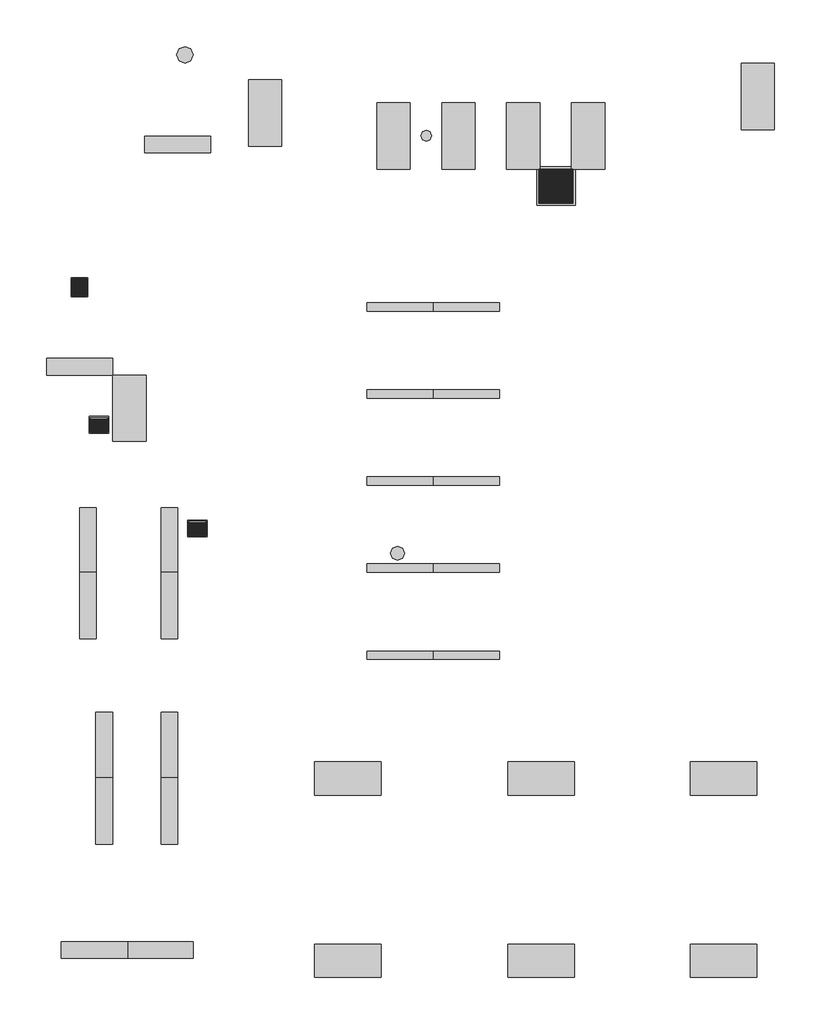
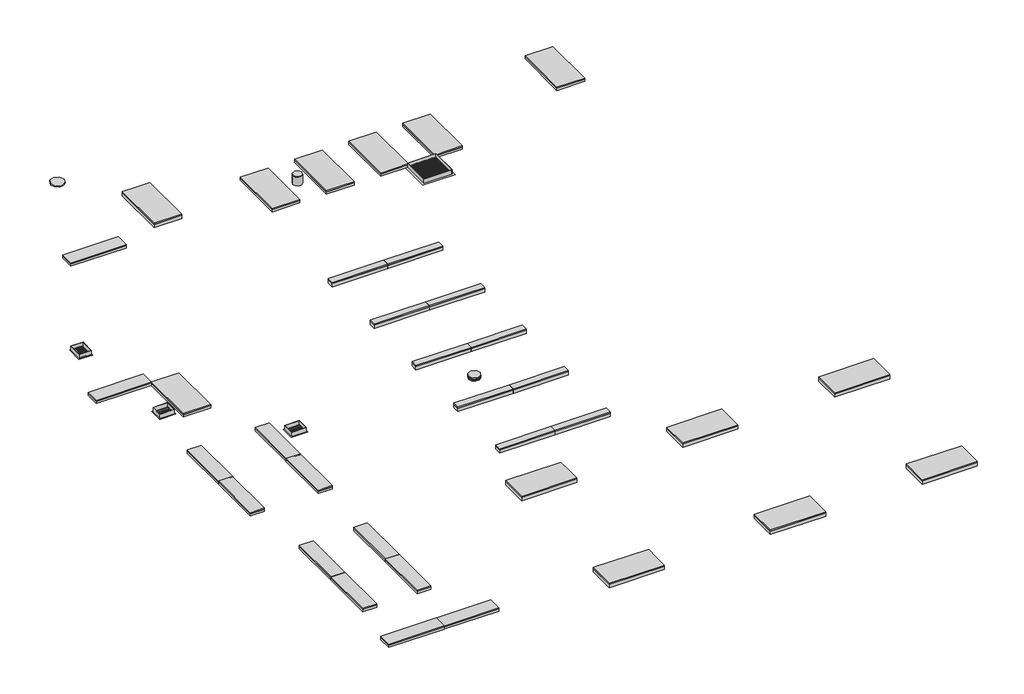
# One storey: 36 light fixtures, 6 proxies.
"""IFC4 building model written with IfcOpenShell, lengths in millimetres."""

from ifc_helpers import new_model, si_unit, origin, place, context, project, spatial, transform, mapped, element, save
from components import air_grill_2_x_2_3d4e8104, air_grill_2_x_2_69e3441c, air_grill_2_x_2_5c2ee384, air_grill_2_x_2_c6a46b44, air_vent_default_1_947aef1c, proxy_8f18e016, default_1_231b9623, recessed_fluorescent_light_default_1_edb9868a, recessed_fluorescent_light_default_1_c438942c, light_fixture_643521e1, suspended_fluorescent_light_default_1_04298bdc, suspended_fluorescent_light_default_1_26eb93f3

model = new_model("IFC4")

# Units and contexts
model_context = context("Model", 3, world=origin())
ifc_project = project(units=[si_unit("LENGTHUNIT", "METRE", prefix="MILLI")], contexts=[model_context])

# Site, building, storey
site = spatial("IfcSite", under=ifc_project)
building = spatial("IfcBuilding", under=site)
storey = spatial("IfcBuildingStorey", under=building, Name="U/S of Joists", Elevation=3352.8)

# Proxies
placement = place(None, origin())
air_grill_2_x_2_shape = air_grill_2_x_2_3d4e8104(model_context)
air_grill_2_x_2_2_shape = air_grill_2_x_2_69e3441c(model_context)
air_grill_2_x_2_3_shape = air_grill_2_x_2_5c2ee384(model_context)
air_grill_2_x_2_4_shape = air_grill_2_x_2_c6a46b44(model_context)
element("IfcBuildingElementProxy", 1, Name="Air Grill : 2' x 2'", ObjectType="Air Grill : 2' x 2'", at=placement, inside=storey, context=model_context, shape_type="MappedRepresentation", body=[
    mapped(air_grill_2_x_2_shape, transform((10483.6452, 8232.775, 254.0), x_axis=(1.0, 0.0, 0.0), y_axis=(0.0, 1.0, 0.0), z_axis=(0.0, 0.0, 1.0))),
    mapped(air_grill_2_x_2_2_shape, transform((10483.6452, 8232.775, 254.0), x_axis=(1.0, 0.0, 0.0), y_axis=(0.0, 1.0, 0.0), z_axis=(0.0, 0.0, 1.0))),
    mapped(air_grill_2_x_2_3_shape, transform((10483.6452, 8232.775, 254.0), x_axis=(1.0, 0.0, 0.0), y_axis=(0.0, 1.0, 0.0), z_axis=(0.0, 0.0, 1.0))),
    mapped(air_grill_2_x_2_4_shape, transform((10483.6452, 8232.775, 254.0), x_axis=(1.0, 0.0, 0.0), y_axis=(0.0, 1.0, 0.0), z_axis=(0.0, 0.0, 1.0))),
])
air_vent_default_1_shape = air_vent_default_1_947aef1c(model_context)
element("IfcBuildingElementProxy", 2, Name="Air Vent : Default 1", ObjectType="Air Vent : Default 1", at=placement, inside=storey, context=model_context, shape_type="MappedRepresentation", body=[
    mapped(air_vent_default_1_shape, transform((3885.9952, 1941.2857, 304.8), x_axis=(0.0, 1.0, 0.0), y_axis=(-1.0, 0.0, 0.0), z_axis=(0.0, 0.0, 1.0))),
])
element("IfcBuildingElementProxy", 3, Name="Air Vent : Default 1", ObjectType="Air Vent : Default 1", at=placement, inside=storey, context=model_context, shape_type="MappedRepresentation", body=[
    mapped(air_vent_default_1_shape, transform((1714.2952, 6373.7725407, 203.2), x_axis=(1.0, 0.0, 0.0), y_axis=(0.0, 1.0, 0.0), z_axis=(0.0, 0.0, 1.0))),
])
element("IfcBuildingElementProxy", 4, Name="Air Vent : Default 1", ObjectType="Air Vent : Default 1", at=placement, inside=storey, context=model_context, shape_type="MappedRepresentation", body=[
    mapped(air_vent_default_1_shape, transform((2076.2452, 3844.925, 203.2), x_axis=(0.0, 1.0, 0.0), y_axis=(-1.0, 0.0, 0.0), z_axis=(0.0, 0.0, 1.0))),
])
proxy_shape = proxy_8f18e016(model_context)
element("IfcBuildingElementProxy", 5, Name="Ceiling Mounted Light : 2'-0\"", ObjectType="Ceiling Mounted Light : 2'-0\"", at=placement, inside=storey, context=model_context, shape_type="MappedRepresentation", body=[
    mapped(proxy_shape, transform((3657.3952, 10645.775, 914.4), x_axis=(1.0, 0.0, 0.0), y_axis=(0.0, 1.0, 0.0), z_axis=(0.0, 0.0, 1.0))),
])
default_1_shape = default_1_231b9623(model_context)
element("IfcBuildingElementProxy", 6, Name="Smoke & Carbon Monoxide Detector : Default 1", ObjectType="Smoke & Carbon Monoxide Detector : Default 1", at=placement, inside=storey, context=model_context, shape_type="MappedRepresentation", body=[
    mapped(default_1_shape, transform((7568.9952, 1482.725, 609.6), x_axis=(1.0, 0.0, 0.0), y_axis=(0.0, 1.0, 0.0), z_axis=(0.0, 0.0, 1.0))),
])

# Light fixtures
recessed_fluorescent_light_default_1_shape = recessed_fluorescent_light_default_1_edb9868a(model_context)
element("IfcLightFixture", 7, ObjectType="Recessed Fluorescent Light : Default 1", at=placement, inside=storey, context=model_context, shape_type="MappedRepresentation", body=[
    mapped(recessed_fluorescent_light_default_1_shape, transform((3523.8952, 8994.946108, 304.8), x_axis=(1.0, 0.0, 0.0), y_axis=(0.0, 1.0, 0.0), z_axis=(0.0, 0.0, 1.0))),
])
element("IfcLightFixture", 8, ObjectType="Recessed Fluorescent Light : Default 1", at=placement, inside=storey, context=model_context, shape_type="MappedRepresentation", body=[
    mapped(recessed_fluorescent_light_default_1_shape, transform((1720.6452, 4911.725, 203.2), x_axis=(1.0, 0.0, 0.0), y_axis=(0.0, 1.0, 0.0), z_axis=(0.0, 0.0, 1.0))),
])
element("IfcLightFixture", 9, ObjectType="Recessed Fluorescent Light : Default 1", at=placement, inside=storey, context=model_context, shape_type="MappedRepresentation", body=[
    mapped(recessed_fluorescent_light_default_1_shape, transform((3371.6452, -2047.875, 254.0), x_axis=(0.0, 1.0, 0.0), y_axis=(-1.0, 0.0, 0.0), z_axis=(0.0, 0.0, 1.0))),
])
element("IfcLightFixture", 10, ObjectType="Recessed Fluorescent Light : Default 1", at=placement, inside=storey, context=model_context, shape_type="MappedRepresentation", body=[
    mapped(recessed_fluorescent_light_default_1_shape, transform((3371.6452, -3254.375, 254.0), x_axis=(0.0, 1.0, 0.0), y_axis=(-1.0, 0.0, 0.0), z_axis=(0.0, 0.0, 1.0))),
])
element("IfcLightFixture", 11, ObjectType="Recessed Fluorescent Light : Default 1", at=placement, inside=storey, context=model_context, shape_type="MappedRepresentation", body=[
    mapped(recessed_fluorescent_light_default_1_shape, transform((2171.4952, -2047.875, 254.0), x_axis=(0.0, 1.0, 0.0), y_axis=(-1.0, 0.0, 0.0), z_axis=(0.0, 0.0, 1.0))),
])
element("IfcLightFixture", 12, ObjectType="Recessed Fluorescent Light : Default 1", at=placement, inside=storey, context=model_context, shape_type="MappedRepresentation", body=[
    mapped(recessed_fluorescent_light_default_1_shape, transform((2171.4952, -3254.375, 254.0), x_axis=(0.0, 1.0, 0.0), y_axis=(-1.0, 0.0, 0.0), z_axis=(0.0, 0.0, 1.0))),
])
element("IfcLightFixture", 13, ObjectType="Recessed Fluorescent Light : Default 1", at=placement, inside=storey, context=model_context, shape_type="MappedRepresentation", body=[
    mapped(recessed_fluorescent_light_default_1_shape, transform((3371.6452, 1714.425, 304.8), x_axis=(0.0, 1.0, 0.0), y_axis=(-1.0, 0.0, 0.0), z_axis=(0.0, 0.0, 1.0))),
])
element("IfcLightFixture", 14, ObjectType="Recessed Fluorescent Light : Default 1", at=placement, inside=storey, context=model_context, shape_type="MappedRepresentation", body=[
    mapped(recessed_fluorescent_light_default_1_shape, transform((3371.6452, 520.625, 304.8), x_axis=(0.0, 1.0, 0.0), y_axis=(-1.0, 0.0, 0.0), z_axis=(0.0, 0.0, 1.0))),
])
element("IfcLightFixture", 15, ObjectType="Recessed Fluorescent Light : Default 1", at=placement, inside=storey, context=model_context, shape_type="MappedRepresentation", body=[
    mapped(recessed_fluorescent_light_default_1_shape, transform((1873.0452, 1714.425, 304.8), x_axis=(0.0, 1.0, 0.0), y_axis=(-1.0, 0.0, 0.0), z_axis=(0.0, 0.0, 1.0))),
])
element("IfcLightFixture", 16, ObjectType="Recessed Fluorescent Light : Default 1", at=placement, inside=storey, context=model_context, shape_type="MappedRepresentation", body=[
    mapped(recessed_fluorescent_light_default_1_shape, transform((1873.0452, 520.625, 304.8), x_axis=(0.0, 1.0, 0.0), y_axis=(-1.0, 0.0, 0.0), z_axis=(0.0, 0.0, 1.0))),
])
element("IfcLightFixture", 17, ObjectType="Recessed Fluorescent Light : Default 1", at=placement, inside=storey, context=model_context, shape_type="MappedRepresentation", body=[
    mapped(recessed_fluorescent_light_default_1_shape, transform((3193.8452, -5813.425, 914.4), x_axis=(1.0, 0.0, 0.0), y_axis=(0.0, 1.0, 0.0), z_axis=(0.0, 0.0, 1.0))),
])
element("IfcLightFixture", 18, ObjectType="Recessed Fluorescent Light : Default 1", at=placement, inside=storey, context=model_context, shape_type="MappedRepresentation", body=[
    mapped(recessed_fluorescent_light_default_1_shape, transform((1993.8452, -5813.425, 914.4), x_axis=(1.0, 0.0, 0.0), y_axis=(0.0, 1.0, 0.0), z_axis=(0.0, 0.0, 1.0))),
])
recessed_fluorescent_light_default_1_2_shape = recessed_fluorescent_light_default_1_c438942c(model_context)
element("IfcLightFixture", 19, ObjectType="Recessed Fluorescent Light : Default 1", at=placement, inside=storey, context=model_context, shape_type="MappedRepresentation", body=[
    mapped(recessed_fluorescent_light_default_1_2_shape, transform((7492.7952, 9153.525, 254.0), x_axis=(0.0, 1.0, 0.0), y_axis=(-1.0, 0.0, 0.0), z_axis=(0.0, 0.0, 1.0))),
])
element("IfcLightFixture", 20, ObjectType="Recessed Fluorescent Light : Default 1", at=placement, inside=storey, context=model_context, shape_type="MappedRepresentation", body=[
    mapped(recessed_fluorescent_light_default_1_2_shape, transform((8686.5952, 9153.525, 254.0), x_axis=(0.0, 1.0, 0.0), y_axis=(-1.0, 0.0, 0.0), z_axis=(0.0, 0.0, 1.0))),
])
element("IfcLightFixture", 21, ObjectType="Recessed Fluorescent Light : Default 1", at=placement, inside=storey, context=model_context, shape_type="MappedRepresentation", body=[
    mapped(recessed_fluorescent_light_default_1_2_shape, transform((9880.3952, 9153.525, 254.0), x_axis=(0.0, 1.0, 0.0), y_axis=(-1.0, 0.0, 0.0), z_axis=(0.0, 0.0, 1.0))),
])
element("IfcLightFixture", 22, ObjectType="Recessed Fluorescent Light : Default 1", at=placement, inside=storey, context=model_context, shape_type="MappedRepresentation", body=[
    mapped(recessed_fluorescent_light_default_1_2_shape, transform((11074.1952, 9153.525, 254.0), x_axis=(0.0, 1.0, 0.0), y_axis=(-1.0, 0.0, 0.0), z_axis=(0.0, 0.0, 1.0))),
])
element("IfcLightFixture", 23, ObjectType="Recessed Fluorescent Light : Default 1", at=placement, inside=storey, context=model_context, shape_type="MappedRepresentation", body=[
    mapped(recessed_fluorescent_light_default_1_2_shape, transform((14192.0452, 9877.425, 304.8), x_axis=(0.0, 1.0, 0.0), y_axis=(-1.0, 0.0, 0.0), z_axis=(0.0, 0.0, 1.0))),
])
element("IfcLightFixture", 24, ObjectType="Recessed Fluorescent Light : Default 1", at=placement, inside=storey, context=model_context, shape_type="MappedRepresentation", body=[
    mapped(recessed_fluorescent_light_default_1_2_shape, transform((2635.0452, 4149.725, 203.2), x_axis=(0.0, 1.0, 0.0), y_axis=(-1.0, 0.0, 0.0), z_axis=(0.0, 0.0, 1.0))),
])
light_fixture_shape = light_fixture_643521e1(model_context)
element("IfcLightFixture", 25, ObjectType="Recessed Pot Light : 8\"", at=placement, inside=storey, context=model_context, shape_type="MappedRepresentation", body=[
    mapped(light_fixture_shape, transform((8096.0452, 9159.875, 254.0), x_axis=(1.0, 0.0, 0.0), y_axis=(0.0, 1.0, 0.0), z_axis=(0.0, 0.0, 1.0))),
])
suspended_fluorescent_light_default_1_shape = suspended_fluorescent_light_default_1_04298bdc(model_context)
element("IfcLightFixture", 26, ObjectType="Suspended Fluorescent Light : Default 1", at=placement, inside=storey, context=model_context, shape_type="MappedRepresentation", body=[
    mapped(suspended_fluorescent_light_default_1_shape, transform((5130.5952, 9578.975, 914.4), x_axis=(0.0, 1.0, 0.0), y_axis=(-1.0, 0.0, 0.0), z_axis=(0.0, 0.0, 1.0))),
])
element("IfcLightFixture", 27, ObjectType="Suspended Fluorescent Light : Default 1", at=placement, inside=storey, context=model_context, shape_type="MappedRepresentation", body=[
    mapped(suspended_fluorescent_light_default_1_shape, transform((6654.5952, -2657.475, 1346.2), x_axis=(1.0, 0.0, 0.0), y_axis=(0.0, 1.0, 0.0), z_axis=(0.0, 0.0, 1.0))),
])
element("IfcLightFixture", 28, ObjectType="Suspended Fluorescent Light : Default 1", at=placement, inside=storey, context=model_context, shape_type="MappedRepresentation", body=[
    mapped(suspended_fluorescent_light_default_1_shape, transform((10210.5952, -2657.475, 1346.2), x_axis=(1.0, 0.0, 0.0), y_axis=(0.0, 1.0, 0.0), z_axis=(0.0, 0.0, 1.0))),
])
element("IfcLightFixture", 29, ObjectType="Suspended Fluorescent Light : Default 1", at=placement, inside=storey, context=model_context, shape_type="MappedRepresentation", body=[
    mapped(suspended_fluorescent_light_default_1_shape, transform((13563.3952, -2657.475, 1346.2), x_axis=(1.0, 0.0, 0.0), y_axis=(0.0, 1.0, 0.0), z_axis=(0.0, 0.0, 1.0))),
])
element("IfcLightFixture", 30, ObjectType="Suspended Fluorescent Light : Default 1", at=placement, inside=storey, context=model_context, shape_type="MappedRepresentation", body=[
    mapped(suspended_fluorescent_light_default_1_shape, transform((6654.5952, -6010.275, 1346.2), x_axis=(1.0, 0.0, 0.0), y_axis=(0.0, 1.0, 0.0), z_axis=(0.0, 0.0, 1.0))),
])
element("IfcLightFixture", 31, ObjectType="Suspended Fluorescent Light : Default 1", at=placement, inside=storey, context=model_context, shape_type="MappedRepresentation", body=[
    mapped(suspended_fluorescent_light_default_1_shape, transform((10210.5952, -6010.275, 1346.2), x_axis=(1.0, 0.0, 0.0), y_axis=(0.0, 1.0, 0.0), z_axis=(0.0, 0.0, 1.0))),
])
element("IfcLightFixture", 32, ObjectType="Suspended Fluorescent Light : Default 1", at=placement, inside=storey, context=model_context, shape_type="MappedRepresentation", body=[
    mapped(suspended_fluorescent_light_default_1_shape, transform((13563.3952, -6010.275, 1346.2), x_axis=(1.0, 0.0, 0.0), y_axis=(0.0, 1.0, 0.0), z_axis=(0.0, 0.0, 1.0))),
])
suspended_fluorescent_light_default_1_2_shape = suspended_fluorescent_light_default_1_26eb93f3(model_context)
element("IfcLightFixture", 33, ObjectType="Suspended Fluorescent Light : Default 1", at=placement, inside=storey, context=model_context, shape_type="MappedRepresentation", body=[
    mapped(suspended_fluorescent_light_default_1_2_shape, transform((8832.6452, 6010.275, 609.6), x_axis=(1.0, 0.0, 0.0), y_axis=(0.0, 1.0, 0.0), z_axis=(0.0, 0.0, 1.0))),
])
element("IfcLightFixture", 34, ObjectType="Suspended Fluorescent Light : Default 1", at=placement, inside=storey, context=model_context, shape_type="MappedRepresentation", body=[
    mapped(suspended_fluorescent_light_default_1_2_shape, transform((7613.4452, 6010.275, 609.6), x_axis=(1.0, 0.0, 0.0), y_axis=(0.0, 1.0, 0.0), z_axis=(0.0, 0.0, 1.0))),
])
element("IfcLightFixture", 35, ObjectType="Suspended Fluorescent Light : Default 1", at=placement, inside=storey, context=model_context, shape_type="MappedRepresentation", body=[
    mapped(suspended_fluorescent_light_default_1_2_shape, transform((8832.6452, 4410.075, 609.6), x_axis=(1.0, 0.0, 0.0), y_axis=(0.0, 1.0, 0.0), z_axis=(0.0, 0.0, 1.0))),
])
element("IfcLightFixture", 36, ObjectType="Suspended Fluorescent Light : Default 1", at=placement, inside=storey, context=model_context, shape_type="MappedRepresentation", body=[
    mapped(suspended_fluorescent_light_default_1_2_shape, transform((7613.4452, 4410.075, 609.6), x_axis=(1.0, 0.0, 0.0), y_axis=(0.0, 1.0, 0.0), z_axis=(0.0, 0.0, 1.0))),
])
element("IfcLightFixture", 37, ObjectType="Suspended Fluorescent Light : Default 1", at=placement, inside=storey, context=model_context, shape_type="MappedRepresentation", body=[
    mapped(suspended_fluorescent_light_default_1_2_shape, transform((8832.6452, 2809.875, 609.6), x_axis=(1.0, 0.0, 0.0), y_axis=(0.0, 1.0, 0.0), z_axis=(0.0, 0.0, 1.0))),
])
element("IfcLightFixture", 38, ObjectType="Suspended Fluorescent Light : Default 1", at=placement, inside=storey, context=model_context, shape_type="MappedRepresentation", body=[
    mapped(suspended_fluorescent_light_default_1_2_shape, transform((7613.4452, 2809.875, 609.6), x_axis=(1.0, 0.0, 0.0), y_axis=(0.0, 1.0, 0.0), z_axis=(0.0, 0.0, 1.0))),
])
element("IfcLightFixture", 39, ObjectType="Suspended Fluorescent Light : Default 1", at=placement, inside=storey, context=model_context, shape_type="MappedRepresentation", body=[
    mapped(suspended_fluorescent_light_default_1_2_shape, transform((8832.6452, 1209.675, 609.6), x_axis=(1.0, 0.0, 0.0), y_axis=(0.0, 1.0, 0.0), z_axis=(0.0, 0.0, 1.0))),
])
element("IfcLightFixture", 40, ObjectType="Suspended Fluorescent Light : Default 1", at=placement, inside=storey, context=model_context, shape_type="MappedRepresentation", body=[
    mapped(suspended_fluorescent_light_default_1_2_shape, transform((7613.4452, 1209.675, 609.6), x_axis=(1.0, 0.0, 0.0), y_axis=(0.0, 1.0, 0.0), z_axis=(0.0, 0.0, 1.0))),
])
element("IfcLightFixture", 41, ObjectType="Suspended Fluorescent Light : Default 1", at=placement, inside=storey, context=model_context, shape_type="MappedRepresentation", body=[
    mapped(suspended_fluorescent_light_default_1_2_shape, transform((8832.6452, -390.525, 609.6), x_axis=(1.0, 0.0, 0.0), y_axis=(0.0, 1.0, 0.0), z_axis=(0.0, 0.0, 1.0))),
])
element("IfcLightFixture", 42, ObjectType="Suspended Fluorescent Light : Default 1", at=placement, inside=storey, context=model_context, shape_type="MappedRepresentation", body=[
    mapped(suspended_fluorescent_light_default_1_2_shape, transform((7613.4452, -390.525, 609.6), x_axis=(1.0, 0.0, 0.0), y_axis=(0.0, 1.0, 0.0), z_axis=(0.0, 0.0, 1.0))),
])

save(model, "model.ifc")
